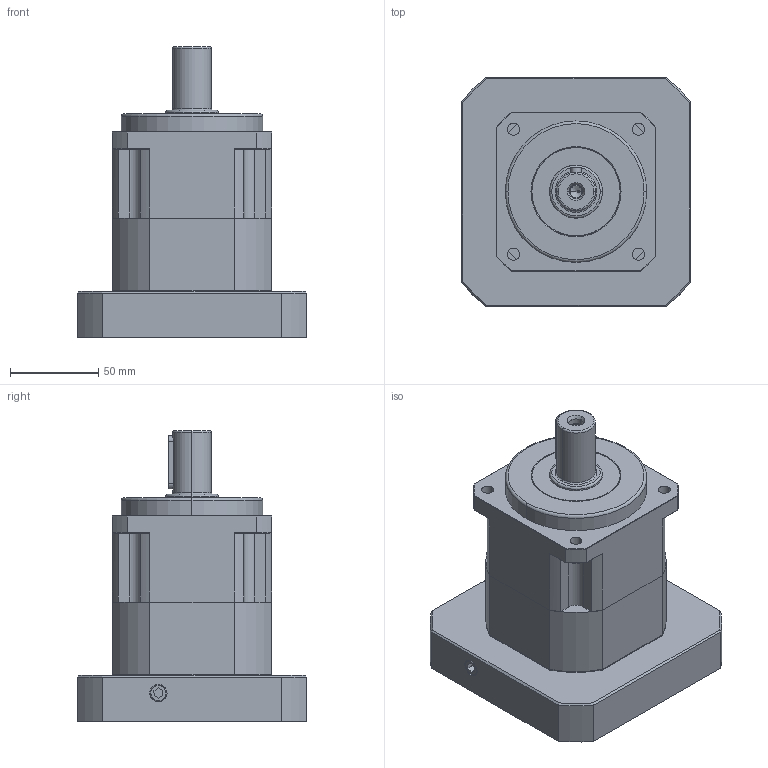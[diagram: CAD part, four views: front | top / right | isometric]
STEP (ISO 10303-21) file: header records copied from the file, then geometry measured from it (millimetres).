
FILE_DESCRIPTION (( 'STEP AP203' ), '1' );
FILE_NAME ('SB90-1-85M8.STEP', '2011-07-12T01:12:29', ( '1' ), ( '' ), 'SwSTEP 2.0', 'SolidWorks 2011', '' );
FILE_SCHEMA (( 'CONFIG_CONTROL_DESIGN' ));
Length unit declared in the file: millimetre
Products named in the file (1): SB90-1-85M8
Bounding box: 130.01 x 130.01 x 164.5 mm (x, y, z)
Volume: 921262.4 mm3; surface area: 161802.6 mm2
Topology: 16 solids, 16 shells, 612 faces, 1468 edges, 912 vertices
Faces by surface type: plane 258, cylinder 204, cone 115, torus 26, bspline 9
Entity records: 18736 total; most frequent: CARTESIAN_POINT 4234, DIRECTION 3143, ORIENTED_EDGE 2884, EDGE_CURVE 1442, AXIS2_PLACEMENT_3D 1195, VERTEX_POINT 912, LINE 753, VECTOR 753
